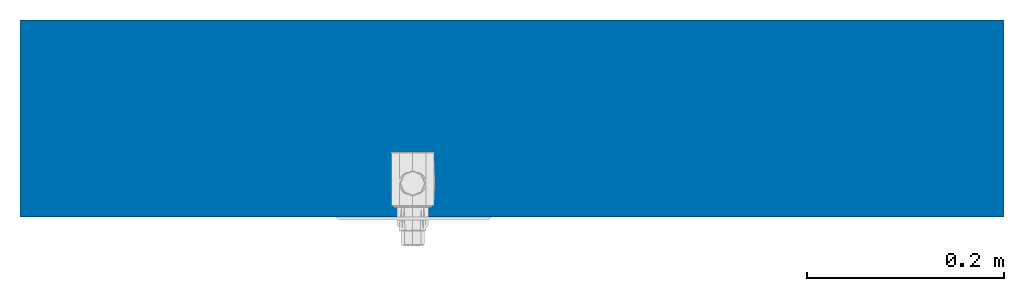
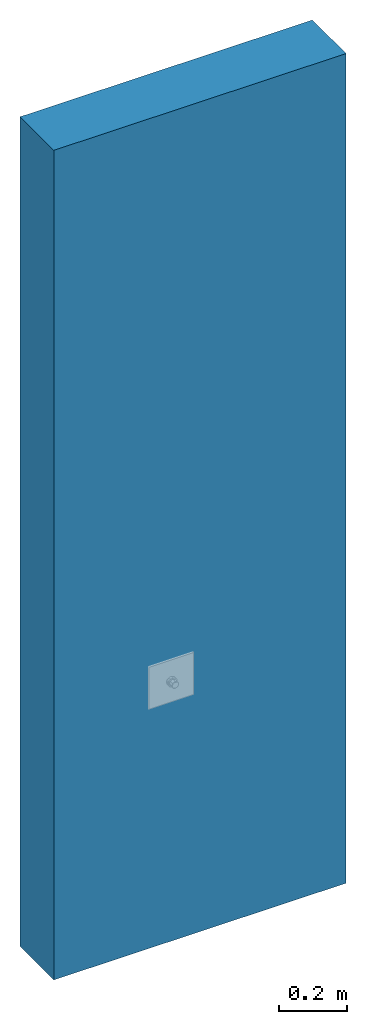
# One storey, incomplete: 1 wall.
"""IFC2X3 building model written with IfcOpenShell, lengths in millimetres."""

from ifc_helpers import new_model, entity, si_unit, converted_unit, frame, frame_2d, origin, place, context, project, spatial, rectangle, extrude, material, layer, layer_set, layer_usage, element, save


model = new_model("IFC2X3")

# Units and contexts
model_context = context("Model", 3, precision=1e-06, world=origin())
plan_context = context("Plan", 3, precision=1e-06, world=origin())
ifc_project = project(units=[si_unit("LENGTHUNIT", "METRE", prefix="MILLI"), si_unit("AREAUNIT", "SQUARE_METRE", prefix="MILLI"), si_unit("VOLUMEUNIT", "CUBIC_METRE", prefix="MILLI"), converted_unit("PLANEANGLEUNIT", "DEGREE", entity("IfcRatioMeasure", 0.01745329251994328), si_unit("PLANEANGLEUNIT", "RADIAN"), dimensions=[0, 0, 0, 0, 0, 0, 0]), si_unit("TIMEUNIT", "SECOND")], contexts=[model_context, plan_context])

# Site, building, storey
site_placement = place(None, origin())
site = spatial("IfcSite", under=ifc_project, at=site_placement, Name="Default", CompositionType="ELEMENT")
building_placement = place(site_placement, origin())
building = spatial("IfcBuilding", under=site, at=building_placement, CompositionType="ELEMENT")
storey_placement = place(building_placement, origin())
storey = spatial("IfcBuildingStorey", under=building, at=storey_placement, Name="Level 1", CompositionType="ELEMENT", Elevation=0.0)

# Wall
ifc_material = material(Name="Default Wall")
ifc_layer = layer(ifc_material, 200.0)
ifc_layer_set = layer_set([ifc_layer], Name="Basic Wall:Generic - 200mm")
ifc_layer_usage = layer_usage(ifc_layer_set, "AXIS2", "NEGATIVE", 100.0)
wall_placement = place(storey_placement, frame((-1439.564370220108, -580.4233417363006, 0.0)))
element("IfcWallStandardCase", 1, at=wall_placement, inside=storey, material=ifc_layer_usage, Name="Basic Wall:Generic - 200mm", ObjectType="Basic Wall:Generic - 200mm:398", context=model_context, shape_type="SweptSolid", body=[
    extrude(rectangle(XDim=1000.0, YDim=200.0000000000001, at=frame_2d((500.0, 0.0), x_axis=(-1.0, 0.0))), origin(), (0.0, 0.0, 1.0), 3000.0),
])

save(model, "model.ifc")
